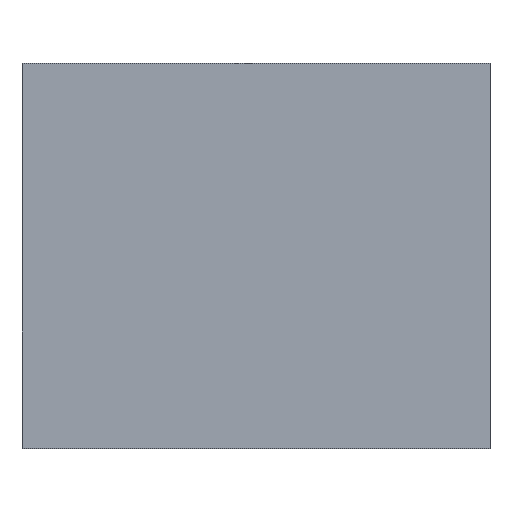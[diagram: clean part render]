
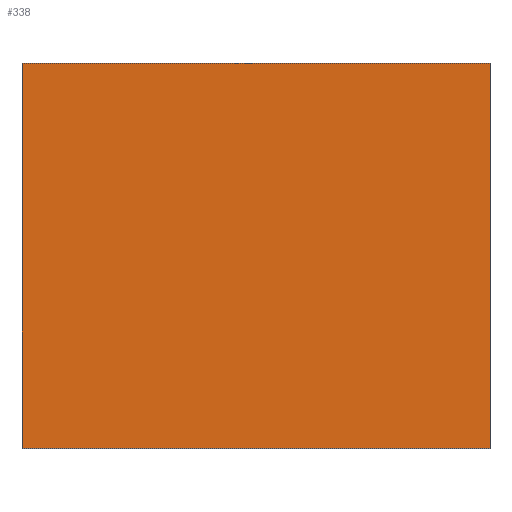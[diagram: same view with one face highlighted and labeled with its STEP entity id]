
A CAD part, top view. The second image highlights one B-rep face of the part: STEP entity #338.
In plain terms, the highlighted planar face has unit normal (0, 0, 1).
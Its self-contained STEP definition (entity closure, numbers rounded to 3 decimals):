
#24 = VERTEX_POINT('',#25);
#25 = CARTESIAN_POINT('',(4.47,10.5,12.31));
#32 = PLANE('',#33);
#33 = AXIS2_PLACEMENT_3D('',#34,#35,#36);
#34 = CARTESIAN_POINT('',(4.47,10.5,9.));
#35 = DIRECTION('',(-1.,-0.,0.));
#36 = DIRECTION('',(0.,0.,-1.));
#44 = PLANE('',#45);
#45 = AXIS2_PLACEMENT_3D('',#46,#47,#48);
#46 = CARTESIAN_POINT('',(4.47,10.5,9.));
#47 = DIRECTION('',(-0.,1.,0.));
#48 = DIRECTION('',(0.,0.,-1.));
#85 = VERTEX_POINT('',#86);
#86 = CARTESIAN_POINT('',(4.47,17.85,12.31));
#100 = PLANE('',#101);
#101 = AXIS2_PLACEMENT_3D('',#102,#103,#104);
#102 = CARTESIAN_POINT('',(4.47,17.85,9.));
#103 = DIRECTION('',(-0.,1.,0.));
#104 = DIRECTION('',(0.,0.,-1.));
#112 = EDGE_CURVE('',#24,#85,#113,.T.);
#113 = SURFACE_CURVE('',#114,(#118,#125),.PCURVE_S1.);
#114 = LINE('',#115,#116);
#115 = CARTESIAN_POINT('',(4.47,10.5,12.31));
#116 = VECTOR('',#117,1.);
#117 = DIRECTION('',(-0.,1.,0.));
#118 = PCURVE('',#32,#119);
#119 = DEFINITIONAL_REPRESENTATION('',(#120),#124);
#120 = LINE('',#121,#122);
#121 = CARTESIAN_POINT('',(-3.31,-0.));
#122 = VECTOR('',#123,1.);
#123 = DIRECTION('',(-0.,-1.));
#124 = ( GEOMETRIC_REPRESENTATION_CONTEXT(2) 
PARAMETRIC_REPRESENTATION_CONTEXT() REPRESENTATION_CONTEXT('2D SPACE',''
  ) );
#125 = PCURVE('',#126,#131);
#126 = PLANE('',#127);
#127 = AXIS2_PLACEMENT_3D('',#128,#129,#130);
#128 = CARTESIAN_POINT('',(4.47,10.5,12.31));
#129 = DIRECTION('',(0.,0.,1.));
#130 = DIRECTION('',(1.,0.,0.));
#131 = DEFINITIONAL_REPRESENTATION('',(#132),#136);
#132 = LINE('',#133,#134);
#133 = CARTESIAN_POINT('',(0.,-0.));
#134 = VECTOR('',#135,1.);
#135 = DIRECTION('',(-0.,1.));
#136 = ( GEOMETRIC_REPRESENTATION_CONTEXT(2) 
PARAMETRIC_REPRESENTATION_CONTEXT() REPRESENTATION_CONTEXT('2D SPACE',''
  ) );
#144 = VERTEX_POINT('',#145);
#145 = CARTESIAN_POINT('',(-4.47,10.5,12.31));
#152 = PLANE('',#153);
#153 = AXIS2_PLACEMENT_3D('',#154,#155,#156);
#154 = CARTESIAN_POINT('',(-4.47,10.5,9.));
#155 = DIRECTION('',(-1.,-0.,0.));
#156 = DIRECTION('',(0.,0.,-1.));
#195 = VERTEX_POINT('',#196);
#196 = CARTESIAN_POINT('',(-4.47,17.85,12.31));
#217 = EDGE_CURVE('',#144,#195,#218,.T.);
#218 = SURFACE_CURVE('',#219,(#223,#230),.PCURVE_S1.);
#219 = LINE('',#220,#221);
#220 = CARTESIAN_POINT('',(-4.47,10.5,12.31));
#221 = VECTOR('',#222,1.);
#222 = DIRECTION('',(-0.,1.,0.));
#223 = PCURVE('',#152,#224);
#224 = DEFINITIONAL_REPRESENTATION('',(#225),#229);
#225 = LINE('',#226,#227);
#226 = CARTESIAN_POINT('',(-3.31,-0.));
#227 = VECTOR('',#228,1.);
#228 = DIRECTION('',(-0.,-1.));
#229 = ( GEOMETRIC_REPRESENTATION_CONTEXT(2) 
PARAMETRIC_REPRESENTATION_CONTEXT() REPRESENTATION_CONTEXT('2D SPACE',''
  ) );
#230 = PCURVE('',#126,#231);
#231 = DEFINITIONAL_REPRESENTATION('',(#232),#236);
#232 = LINE('',#233,#234);
#233 = CARTESIAN_POINT('',(-8.94,0.));
#234 = VECTOR('',#235,1.);
#235 = DIRECTION('',(-0.,1.));
#236 = ( GEOMETRIC_REPRESENTATION_CONTEXT(2) 
PARAMETRIC_REPRESENTATION_CONTEXT() REPRESENTATION_CONTEXT('2D SPACE',''
  ) );
#263 = EDGE_CURVE('',#24,#144,#264,.T.);
#264 = SURFACE_CURVE('',#265,(#269,#276),.PCURVE_S1.);
#265 = LINE('',#266,#267);
#266 = CARTESIAN_POINT('',(4.47,10.5,12.31));
#267 = VECTOR('',#268,1.);
#268 = DIRECTION('',(-1.,-0.,0.));
#269 = PCURVE('',#44,#270);
#270 = DEFINITIONAL_REPRESENTATION('',(#271),#275);
#271 = LINE('',#272,#273);
#272 = CARTESIAN_POINT('',(-3.31,-0.));
#273 = VECTOR('',#274,1.);
#274 = DIRECTION('',(-0.,1.));
#275 = ( GEOMETRIC_REPRESENTATION_CONTEXT(2) 
PARAMETRIC_REPRESENTATION_CONTEXT() REPRESENTATION_CONTEXT('2D SPACE',''
  ) );
#276 = PCURVE('',#126,#277);
#277 = DEFINITIONAL_REPRESENTATION('',(#278),#282);
#278 = LINE('',#279,#280);
#279 = CARTESIAN_POINT('',(0.,-0.));
#280 = VECTOR('',#281,1.);
#281 = DIRECTION('',(-1.,0.));
#282 = ( GEOMETRIC_REPRESENTATION_CONTEXT(2) 
PARAMETRIC_REPRESENTATION_CONTEXT() REPRESENTATION_CONTEXT('2D SPACE',''
  ) );
#310 = EDGE_CURVE('',#85,#195,#311,.T.);
#311 = SURFACE_CURVE('',#312,(#316,#323),.PCURVE_S1.);
#312 = LINE('',#313,#314);
#313 = CARTESIAN_POINT('',(4.47,17.85,12.31));
#314 = VECTOR('',#315,1.);
#315 = DIRECTION('',(-1.,-0.,0.));
#316 = PCURVE('',#100,#317);
#317 = DEFINITIONAL_REPRESENTATION('',(#318),#322);
#318 = LINE('',#319,#320);
#319 = CARTESIAN_POINT('',(-3.31,-0.));
#320 = VECTOR('',#321,1.);
#321 = DIRECTION('',(-0.,1.));
#322 = ( GEOMETRIC_REPRESENTATION_CONTEXT(2) 
PARAMETRIC_REPRESENTATION_CONTEXT() REPRESENTATION_CONTEXT('2D SPACE',''
  ) );
#323 = PCURVE('',#126,#324);
#324 = DEFINITIONAL_REPRESENTATION('',(#325),#329);
#325 = LINE('',#326,#327);
#326 = CARTESIAN_POINT('',(0.,7.35));
#327 = VECTOR('',#328,1.);
#328 = DIRECTION('',(-1.,0.));
#329 = ( GEOMETRIC_REPRESENTATION_CONTEXT(2) 
PARAMETRIC_REPRESENTATION_CONTEXT() REPRESENTATION_CONTEXT('2D SPACE',''
  ) );
#338 = ADVANCED_FACE('',(#339),#126,.T.);
#339 = FACE_BOUND('',#340,.F.);
#340 = EDGE_LOOP('',(#341,#342,#343,#344));
#341 = ORIENTED_EDGE('',*,*,#112,.F.);
#342 = ORIENTED_EDGE('',*,*,#263,.T.);
#343 = ORIENTED_EDGE('',*,*,#217,.T.);
#344 = ORIENTED_EDGE('',*,*,#310,.F.);
